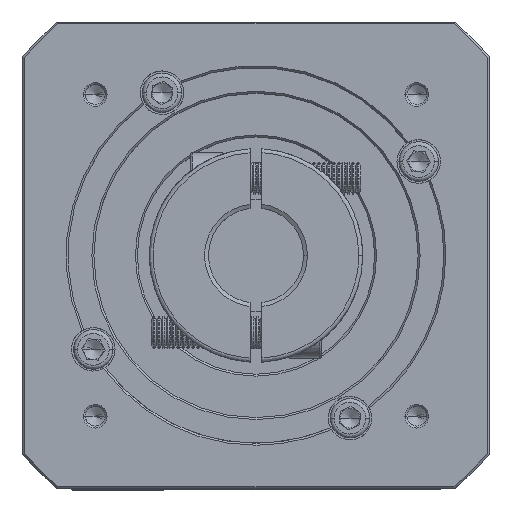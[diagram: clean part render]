
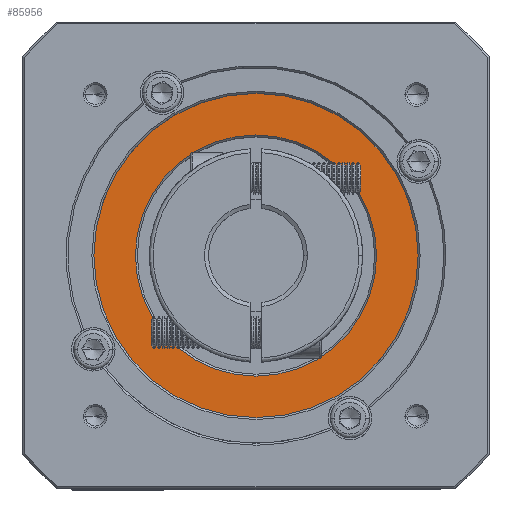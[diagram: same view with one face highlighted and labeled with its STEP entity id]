
A CAD part, top view. The second image highlights one B-rep face of the part: STEP entity #85956.
In plain terms, the highlighted planar face has unit normal (0, 0, 1).
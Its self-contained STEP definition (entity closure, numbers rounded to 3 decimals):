
#10606 = DIRECTION ( 'NONE',  ( 0., 0., 1. ) ) ;
#10924 = DIRECTION ( 'NONE',  ( 0., 0., -1. ) ) ;
#13105 = ORIENTED_EDGE ( 'NONE', *, *, #45753, .T. ) ;
#13942 = EDGE_CURVE ( 'NONE', #105746, #80847, #51430, .T. ) ;
#15855 = CARTESIAN_POINT ( 'NONE',  ( 105.891, 125.363, 14.683 ) ) ;
#16462 = CARTESIAN_POINT ( 'NONE',  ( 95.391, 125.363, 14.683 ) ) ;
#26774 = CARTESIAN_POINT ( 'NONE',  ( 64.891, 125.363, 14.683 ) ) ;
#27324 = CARTESIAN_POINT ( 'NONE',  ( 34.391, 125.363, 14.683 ) ) ;
#31121 = FACE_OUTER_BOUND ( 'NONE', #81487, .T. ) ;
#31903 = AXIS2_PLACEMENT_3D ( 'NONE', #60474, #10606, #69390 ) ;
#37709 = DIRECTION ( 'NONE',  ( 1., 0., 0. ) ) ;
#40274 = EDGE_LOOP ( 'NONE', ( #92434, #13105 ) ) ;
#44904 = DIRECTION ( 'NONE',  ( 1., 0., 0. ) ) ;
#45753 = EDGE_CURVE ( 'NONE', #80847, #105746, #84206, .T. ) ;
#46979 = ORIENTED_EDGE ( 'NONE', *, *, #76291, .T. ) ;
#51430 = CIRCLE ( 'NONE', #60021, 30.5 ) ;
#52692 = VERTEX_POINT ( 'NONE', #108124 ) ;
#56106 = VERTEX_POINT ( 'NONE', #15855 ) ;
#56634 = CARTESIAN_POINT ( 'NONE',  ( 64.891, 125.363, 14.683 ) ) ;
#58723 = EDGE_CURVE ( 'NONE', #56106, #52692, #91081, .T. ) ;
#58764 = AXIS2_PLACEMENT_3D ( 'NONE', #56634, #65155, #98481 ) ;
#60021 = AXIS2_PLACEMENT_3D ( 'NONE', #96507, #62066, #37709 ) ;
#60474 = CARTESIAN_POINT ( 'NONE',  ( 64.891, 125.363, 14.683 ) ) ;
#62066 = DIRECTION ( 'NONE',  ( 0., 0., -1. ) ) ;
#63134 = CIRCLE ( 'NONE', #68201, 41. ) ;
#65155 = DIRECTION ( 'NONE',  ( 0., 0., 1. ) ) ;
#68201 = AXIS2_PLACEMENT_3D ( 'NONE', #74896, #82665, #99040 ) ;
#69390 = DIRECTION ( 'NONE',  ( 1., 0., 0. ) ) ;
#74896 = CARTESIAN_POINT ( 'NONE',  ( 64.891, 125.363, 14.683 ) ) ;
#76291 = EDGE_CURVE ( 'NONE', #52692, #56106, #63134, .T. ) ;
#80847 = VERTEX_POINT ( 'NONE', #27324 ) ;
#81487 = EDGE_LOOP ( 'NONE', ( #106312, #46979 ) ) ;
#82665 = DIRECTION ( 'NONE',  ( 0., 0., 1. ) ) ;
#84206 = CIRCLE ( 'NONE', #109521, 30.5 ) ;
#85956 = ADVANCED_FACE ( 'NONE', ( #31121, #92113 ), #93826, .T. ) ;
#91081 = CIRCLE ( 'NONE', #58764, 41. ) ;
#92113 = FACE_BOUND ( 'NONE', #40274, .T. ) ;
#92434 = ORIENTED_EDGE ( 'NONE', *, *, #13942, .T. ) ;
#93826 = PLANE ( 'NONE',  #31903 ) ;
#96507 = CARTESIAN_POINT ( 'NONE',  ( 64.891, 125.363, 14.683 ) ) ;
#98481 = DIRECTION ( 'NONE',  ( 1., 0., 0. ) ) ;
#99040 = DIRECTION ( 'NONE',  ( 1., 0., 0. ) ) ;
#105746 = VERTEX_POINT ( 'NONE', #16462 ) ;
#106312 = ORIENTED_EDGE ( 'NONE', *, *, #58723, .T. ) ;
#108124 = CARTESIAN_POINT ( 'NONE',  ( 23.891, 125.363, 14.683 ) ) ;
#109521 = AXIS2_PLACEMENT_3D ( 'NONE', #26774, #10924, #44904 ) ;
